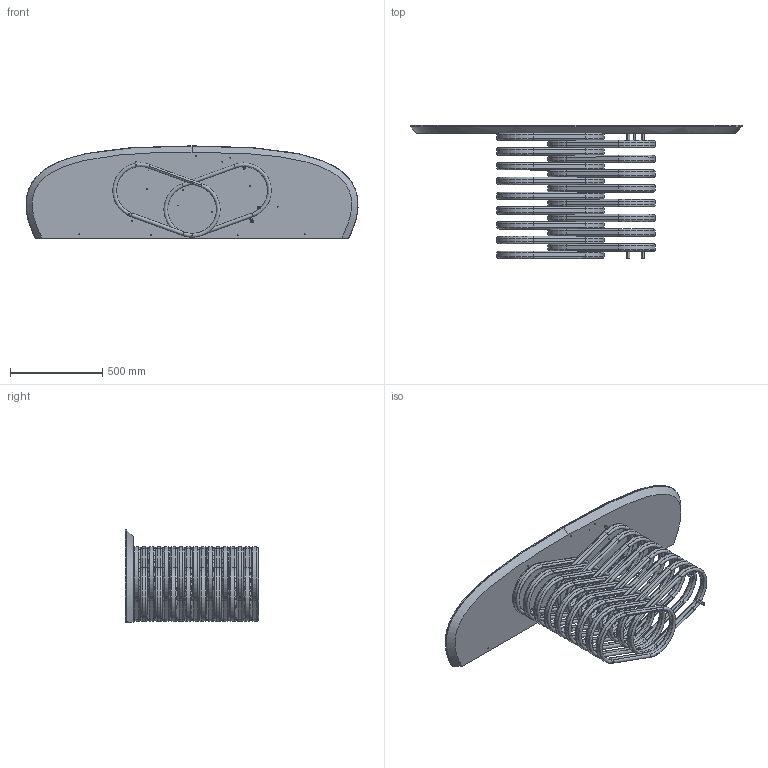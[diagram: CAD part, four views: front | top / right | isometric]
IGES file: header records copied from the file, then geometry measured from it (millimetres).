
Start section: SolidWorks IGES file using analytic representation for surfaces
Global section: file name: Y:\eforma\TECNICO\SOLIDWORKS\E-FORMA\3-CONSOLE\ROTOLO CONSOLE\02 parts\RO61C.IGS; native system: SolidWorks 2022; preprocessor: SolidWorks 2022; author: eforma.tech; date: 240806.120157; units: millimetre
Bounding box: 1799.14 x 721 x 500 mm (x, y, z)
Volume: 36623046.9 mm3; surface area: 8257716.1 mm2
Topology: 75 solids, 75 shells, 872 faces, 2119 edges, 1373 vertices
Faces by surface type: revolution 566, plane 300, bspline 6
